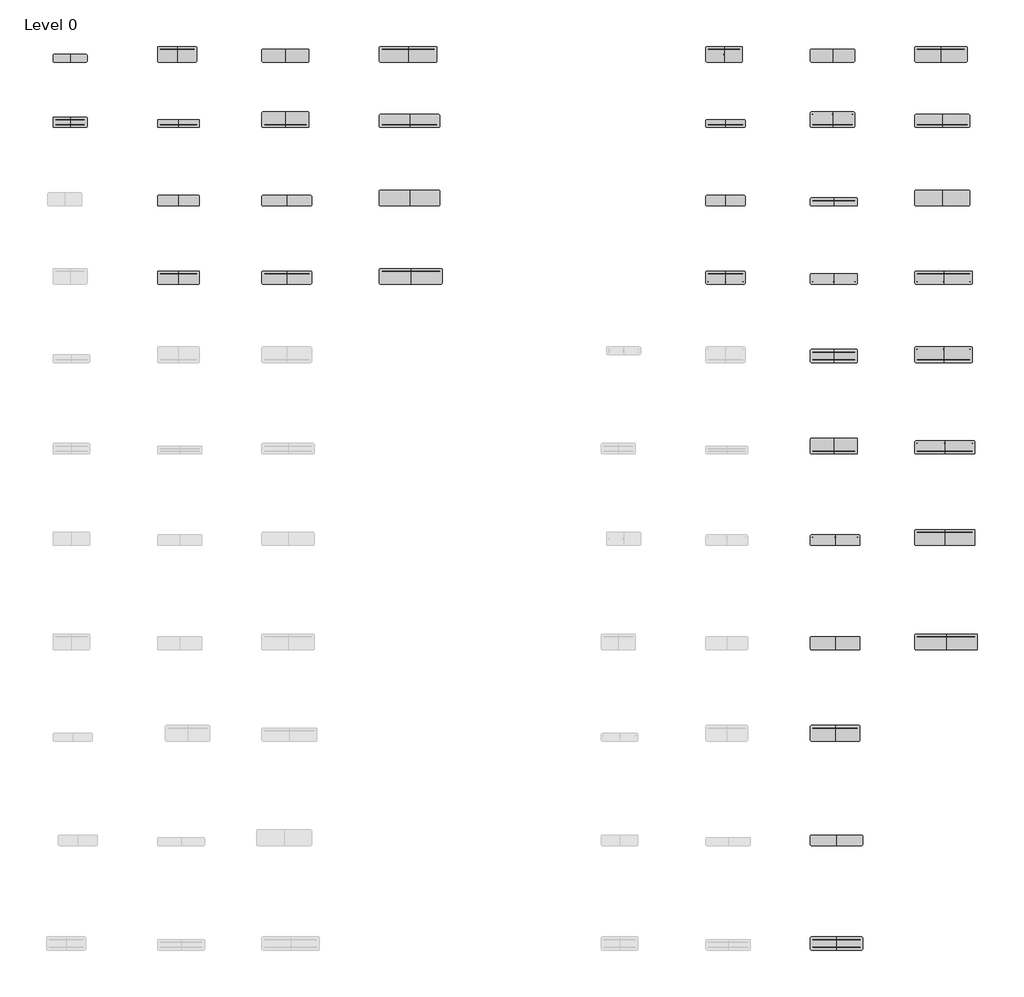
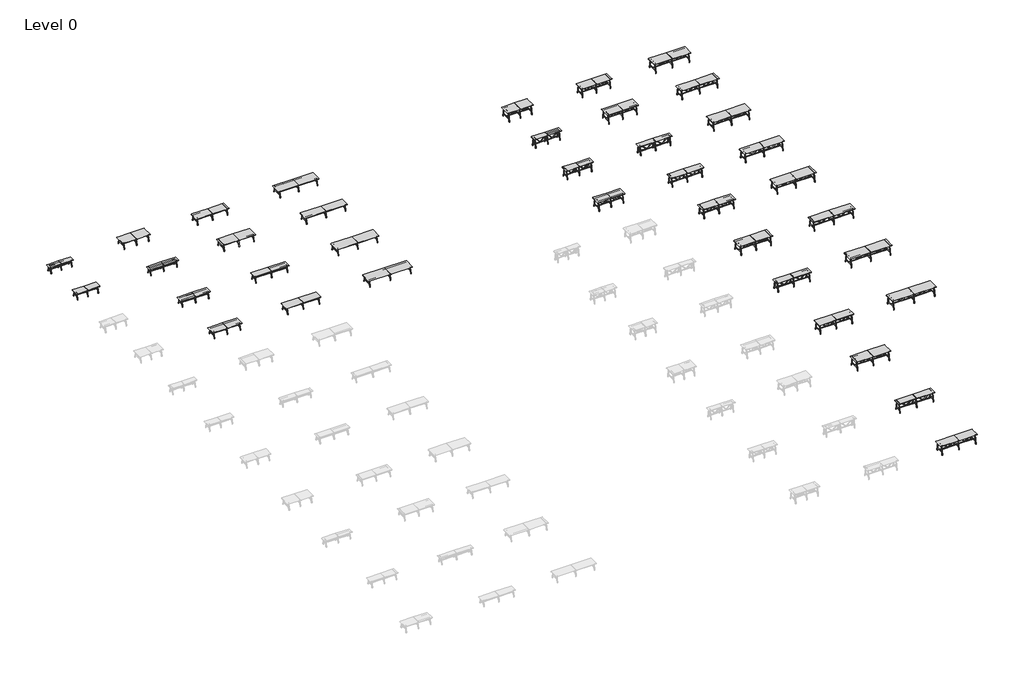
# One storey, part 2 of 2: 111 furniture elements.
"""IFC4 building model written with IfcOpenShell, lengths in millimetres."""

from ifc_helpers import new_model, si_unit, origin, place, context, project, spatial, transform, mapped, element, save
from components import furniture_a8da8c6c, furniture_bf5d280a, furniture_fe5108ca, furniture_91d1ad21, furniture_6b3ee88b, furniture_2c2fea91, furniture_64fc31fd, furniture_ee9454a6, furniture_f8b1dc2d, furniture_4ba8128c, furniture_8cfd374d, furniture_a2356af6, furniture_21c54065, furniture_b3756201, furniture_975e87f2, furniture_671829be, furniture_e9dce342, furniture_515d8d24, furniture_18169ef0, furniture_83d5880c, furniture_de72b87b, furniture_dbc55a2c, furniture_ba73165f, furniture_63866d18, furniture_80203a72, furniture_0616d36a, furniture_95861a6c, furniture_f8ce24c6, furniture_0840cc05, furniture_0215ca8e, furniture_9e24929a, furniture_9780884d, furniture_1006f0d8, furniture_fbad0ee9, furniture_86d8b4d1, furniture_46032078, furniture_09a09e86, standard_e49cf23a, standard_764fe6dd, standard_51391d5e, standard_9c482cb1, standard_5a547e0f, standard_83b622b6, standard_f0e4b4a8, standard_dce489fb, standard_a8cf723d, standard_96c98aa3, standard_760dc299, standard_3fda8c66, standard_67ecec02, standard_20d5036e, standard_b130652b, standard_3b17631c, standard_a00d5145, standard_066c3617, standard_9f9972de, standard_89768995, standard_30ef5b83, standard_21455343, standard_4e0f21be, standard_f1ad80d6, standard_e8bf10b1, standard_5f55f8bf, standard_79f6cf34, standard_6aeb70d0, standard_100b0362, standard_613d0d07, standard_fd26c19c, standard_a5c8d3ff, standard_bcc122a8

model = new_model("IFC4")

# Units and contexts
model_context = context("Model", 3, world=origin())
ifc_project = project(units=[si_unit("LENGTHUNIT", "METRE", prefix="MILLI")], contexts=[model_context])

# Site, building, storey
site = spatial("IfcSite", under=ifc_project)
building = spatial("IfcBuilding", under=site)
storey = spatial("IfcBuildingStorey", under=building, Name="Level 0", Elevation=0.0)

# Furniture
placement = place(None, origin())
furniture_shape = furniture_a8da8c6c(model_context)
element("IfcFurniture", 1, ObjectType="BDG_BossDesign_Tbls_AgentTables6Legs : AGE-DT-6L-2600-600-3D", at=placement, inside=storey, context=model_context, shape_type="MappedRepresentation", body=[
    mapped(furniture_shape, transform((-52884.3748273, -9863.0272761, 0.0), x_axis=(1.0, 0.0, 0.0), y_axis=(0.0, 1.0, 0.0), z_axis=(0.0, 0.0, 1.0))),
])
furniture_2_shape = furniture_bf5d280a(model_context)
element("IfcFurniture", 2, ObjectType="BDG_BossDesign_Tbls_AgentTables6Legs : AGE-DT-6L-2600-800-3D", at=placement, inside=storey, context=model_context, shape_type="MappedRepresentation", body=[
    mapped(furniture_2_shape, transform((-52884.3748273, -14763.0272761, 0.0), x_axis=(1.0, 0.0, 0.0), y_axis=(0.0, 1.0, 0.0), z_axis=(0.0, 0.0, 1.0))),
])
furniture_3_shape = furniture_fe5108ca(model_context)
element("IfcFurniture", 3, ObjectType="BDG_BossDesign_Tbls_AgentTables6Legs : AGE-DT-6L-3000-1200-3D", at=placement, inside=storey, context=model_context, shape_type="MappedRepresentation", body=[
    mapped(furniture_3_shape, transform((-44684.3748273, -9563.0272761, 0.0), x_axis=(1.0, 0.0, 0.0), y_axis=(0.0, 1.0, 0.0), z_axis=(0.0, 0.0, 1.0))),
])
furniture_4_shape = furniture_91d1ad21(model_context)
element("IfcFurniture", 4, ObjectType="BDG_BossDesign_Tbls_AgentTables6Legs : AGE-DT-6L-3200-600-3D", at=placement, inside=storey, context=model_context, shape_type="MappedRepresentation", body=[
    mapped(furniture_4_shape, transform((-44584.3748273, -14863.0272761, 0.0), x_axis=(1.0, 0.0, 0.0), y_axis=(0.0, 1.0, 0.0), z_axis=(0.0, 0.0, 1.0))),
])
furniture_5_shape = furniture_6b3ee88b(model_context)
element("IfcFurniture", 5, ObjectType="BDG_BossDesign_Tbls_AgentTables6Legs : AGE-DT-6L-3200-800-3D", at=placement, inside=storey, context=model_context, shape_type="MappedRepresentation", body=[
    mapped(furniture_5_shape, transform((-44584.3748273, -20763.0272761, 0.0), x_axis=(1.0, 0.0, 0.0), y_axis=(0.0, 1.0, 0.0), z_axis=(0.0, 0.0, 1.0))),
])
furniture_6_shape = furniture_2c2fea91(model_context)
element("IfcFurniture", 6, ObjectType="BDG_BossDesign_Tbls_AgentTables6Legs : AGE-DT-6L-3200-1000-3D", at=placement, inside=storey, context=model_context, shape_type="MappedRepresentation", body=[
    mapped(furniture_6_shape, transform((-44584.3748273, -26663.0272761, 0.0), x_axis=(1.0, 0.0, 0.0), y_axis=(0.0, 1.0, 0.0), z_axis=(0.0, 0.0, 1.0))),
])
furniture_7_shape = furniture_64fc31fd(model_context)
element("IfcFurniture", 7, ObjectType="BDG_BossDesign_Tbls_AgentTables6Legs : AGE-DT-6L-3600-1000-3D", at=placement, inside=storey, context=model_context, shape_type="MappedRepresentation", body=[
    mapped(furniture_7_shape, transform((-36384.3748273, -9663.0272761, 0.0), x_axis=(1.0, 0.0, 0.0), y_axis=(0.0, 1.0, 0.0), z_axis=(0.0, 0.0, 1.0))),
])
furniture_8_shape = furniture_ee9454a6(model_context)
element("IfcFurniture", 8, ObjectType="BDG_BossDesign_Tbls_AgentTables6Legs : AGE-DT-6L-3600-1200-3D", at=placement, inside=storey, context=model_context, shape_type="MappedRepresentation", body=[
    mapped(furniture_8_shape, transform((-36384.3748273, -14563.0272761, 0.0), x_axis=(1.0, 0.0, 0.0), y_axis=(0.0, 1.0, 0.0), z_axis=(0.0, 0.0, 1.0))),
])
furniture_9_shape = furniture_f8b1dc2d(model_context)
element("IfcFurniture", 9, ObjectType="BDG_BossDesign_Tbls_AgentTables6Legs : AGE-DT-6L-3800-800-3D", at=placement, inside=storey, context=model_context, shape_type="MappedRepresentation", body=[
    mapped(furniture_9_shape, transform((-36284.3748273, -20763.0272761, 0.0), x_axis=(1.0, 0.0, 0.0), y_axis=(0.0, 1.0, 0.0), z_axis=(0.0, 0.0, 1.0))),
])
furniture_10_shape = furniture_4ba8128c(model_context)
element("IfcFurniture", 10, ObjectType="BDG_BossDesign_Tbls_AgentTables6Legs : AGE-DT-6L-3800-1000-3D", at=placement, inside=storey, context=model_context, shape_type="MappedRepresentation", body=[
    mapped(furniture_10_shape, transform((-36284.3748273, -26663.0272761, 0.0), x_axis=(1.0, 0.0, 0.0), y_axis=(0.0, 1.0, 0.0), z_axis=(0.0, 0.0, 1.0))),
])
furniture_11_shape = furniture_8cfd374d(model_context)
element("IfcFurniture", 11, ObjectType="BDG_BossDesign_Tbls_AgentTables6Legs : AGE-DT-6L-4400-1200-3D", at=placement, inside=storey, context=model_context, shape_type="MappedRepresentation", body=[
    mapped(furniture_11_shape, transform((-26984.3748273, -9563.0272761, 0.0), x_axis=(1.0, 0.0, 0.0), y_axis=(0.0, 1.0, 0.0), z_axis=(0.0, 0.0, 1.0))),
])
furniture_12_shape = furniture_a2356af6(model_context)
element("IfcFurniture", 12, ObjectType="BDG_BossDesign_Tbls_AgentTables6Legs : AGE-DT-6L-4600-1000-3D", at=placement, inside=storey, context=model_context, shape_type="MappedRepresentation", body=[
    mapped(furniture_12_shape, transform((-26884.3748273, -14663.0272761, 0.0), x_axis=(1.0, 0.0, 0.0), y_axis=(0.0, 1.0, 0.0), z_axis=(0.0, 0.0, 1.0))),
])
furniture_13_shape = furniture_21c54065(model_context)
element("IfcFurniture", 13, ObjectType="BDG_BossDesign_Tbls_AgentTables6Legs : AGE-DT-6L-4600-1200-3D", at=placement, inside=storey, context=model_context, shape_type="MappedRepresentation", body=[
    mapped(furniture_13_shape, transform((-26884.3748273, -20563.0272761, 0.0), x_axis=(1.0, 0.0, 0.0), y_axis=(0.0, 1.0, 0.0), z_axis=(0.0, 0.0, 1.0))),
])
furniture_14_shape = furniture_b3756201(model_context)
element("IfcFurniture", 14, ObjectType="BDG_BossDesign_Tbls_AgentTables6Legs : AGE-DT-6L-4800-1200-3D", at=placement, inside=storey, context=model_context, shape_type="MappedRepresentation", body=[
    mapped(furniture_14_shape, transform((-26784.3748273, -26563.0272761, 0.0), x_axis=(1.0, 0.0, 0.0), y_axis=(0.0, 1.0, 0.0), z_axis=(0.0, 0.0, 1.0))),
])
furniture_15_shape = furniture_975e87f2(model_context)
element("IfcFurniture", 15, ObjectType="BDG_BossDesign_Tbls_AgentTables6Legs : AGE-HT-6L-2800-1200-3D", at=placement, inside=storey, context=model_context, shape_type="MappedRepresentation", body=[
    mapped(furniture_15_shape, transform((-2784.3748273, -9563.0272761, 0.0), x_axis=(1.0, 0.0, 0.0), y_axis=(0.0, 1.0, 0.0), z_axis=(0.0, 0.0, 1.0))),
])
furniture_16_shape = furniture_671829be(model_context)
element("IfcFurniture", 16, ObjectType="BDG_BossDesign_Tbls_AgentTables6Legs : AGE-HT-6L-3000-600-3D", at=placement, inside=storey, context=model_context, shape_type="MappedRepresentation", body=[
    mapped(furniture_16_shape, transform((-2684.3748273, -14863.0272761, 0.0), x_axis=(1.0, 0.0, 0.0), y_axis=(0.0, 1.0, 0.0), z_axis=(0.0, 0.0, 1.0))),
])
furniture_17_shape = furniture_e9dce342(model_context)
element("IfcFurniture", 17, ObjectType="BDG_BossDesign_Tbls_AgentTables6Legs : AGE-HT-6L-3000-800-3D", at=placement, inside=storey, context=model_context, shape_type="MappedRepresentation", body=[
    mapped(furniture_17_shape, transform((-2684.3748273, -20763.0272761, 0.0), x_axis=(1.0, 0.0, 0.0), y_axis=(0.0, 1.0, 0.0), z_axis=(0.0, 0.0, 1.0))),
])
furniture_18_shape = furniture_515d8d24(model_context)
element("IfcFurniture", 18, ObjectType="BDG_BossDesign_Tbls_AgentTables6Legs : AGE-HT-6L-3000-1000-3D", at=placement, inside=storey, context=model_context, shape_type="MappedRepresentation", body=[
    mapped(furniture_18_shape, transform((-2684.3748273, -26663.0272761, 0.0), x_axis=(1.0, 0.0, 0.0), y_axis=(0.0, 1.0, 0.0), z_axis=(0.0, 0.0, 1.0))),
])
furniture_19_shape = furniture_18169ef0(model_context)
element("IfcFurniture", 19, ObjectType="BDG_BossDesign_Tbls_AgentTables6Legs : AGE-HT-6L-3400-1000-3D", at=placement, inside=storey, context=model_context, shape_type="MappedRepresentation", body=[
    mapped(furniture_19_shape, transform((5515.6251727, -9663.0272761, 0.0), x_axis=(1.0, 0.0, 0.0), y_axis=(0.0, 1.0, 0.0), z_axis=(0.0, 0.0, 1.0))),
])
furniture_20_shape = furniture_83d5880c(model_context)
element("IfcFurniture", 20, ObjectType="BDG_BossDesign_Tbls_AgentTables6Legs : AGE-HT-6L-3400-1200-3D", at=placement, inside=storey, context=model_context, shape_type="MappedRepresentation", body=[
    mapped(furniture_20_shape, transform((5515.6251727, -14563.0272761, 0.0), x_axis=(1.0, 0.0, 0.0), y_axis=(0.0, 1.0, 0.0), z_axis=(0.0, 0.0, 1.0))),
])
furniture_21_shape = furniture_de72b87b(model_context)
element("IfcFurniture", 21, ObjectType="BDG_BossDesign_Tbls_AgentTables6Legs : AGE-HT-6L-3600-600-3D", at=placement, inside=storey, context=model_context, shape_type="MappedRepresentation", body=[
    mapped(furniture_21_shape, transform((5615.6251727, -20863.0272761, 0.0), x_axis=(1.0, 0.0, 0.0), y_axis=(0.0, 1.0, 0.0), z_axis=(0.0, 0.0, 1.0))),
])
furniture_22_shape = furniture_dbc55a2c(model_context)
element("IfcFurniture", 22, ObjectType="BDG_BossDesign_Tbls_AgentTables6Legs : AGE-HT-6L-3600-800-3D", at=placement, inside=storey, context=model_context, shape_type="MappedRepresentation", body=[
    mapped(furniture_22_shape, transform((5615.6251727, -26763.0272761, 0.0), x_axis=(1.0, 0.0, 0.0), y_axis=(0.0, 1.0, 0.0), z_axis=(0.0, 0.0, 1.0))),
])
furniture_23_shape = furniture_ba73165f(model_context)
element("IfcFurniture", 23, ObjectType="BDG_BossDesign_Tbls_AgentTables6Legs : AGE-HT-6L-3600-1000-3D", at=placement, inside=storey, context=model_context, shape_type="MappedRepresentation", body=[
    mapped(furniture_23_shape, transform((5615.6251727, -32663.0272761, 0.0), x_axis=(1.0, 0.0, 0.0), y_axis=(0.0, 1.0, 0.0), z_axis=(0.0, 0.0, 1.0))),
])
furniture_24_shape = furniture_63866d18(model_context)
element("IfcFurniture", 24, ObjectType="BDG_BossDesign_Tbls_AgentTables6Legs : AGE-HT-6L-3600-1200-3D", at=placement, inside=storey, context=model_context, shape_type="MappedRepresentation", body=[
    mapped(furniture_24_shape, transform((5615.6251727, -39563.0272761, 0.0), x_axis=(1.0, 0.0, 0.0), y_axis=(0.0, 1.0, 0.0), z_axis=(0.0, 0.0, 1.0))),
])
furniture_25_shape = furniture_80203a72(model_context)
element("IfcFurniture", 25, ObjectType="BDG_BossDesign_Tbls_AgentTables6Legs : AGE-HT-6L-3800-800-3D", at=placement, inside=storey, context=model_context, shape_type="MappedRepresentation", body=[
    mapped(furniture_25_shape, transform((5715.6251727, -46763.0272761, 0.0), x_axis=(1.0, 0.0, 0.0), y_axis=(0.0, 1.0, 0.0), z_axis=(0.0, 0.0, 1.0))),
])
furniture_26_shape = furniture_0616d36a(model_context)
element("IfcFurniture", 26, ObjectType="BDG_BossDesign_Tbls_AgentTables6Legs : AGE-HT-6L-3800-1000-3D", at=placement, inside=storey, context=model_context, shape_type="MappedRepresentation", body=[
    mapped(furniture_26_shape, transform((5715.6251727, -54663.0272761, 0.0), x_axis=(1.0, 0.0, 0.0), y_axis=(0.0, 1.0, 0.0), z_axis=(0.0, 0.0, 1.0))),
])
furniture_27_shape = furniture_95861a6c(model_context)
element("IfcFurniture", 27, ObjectType="BDG_BossDesign_Tbls_AgentTables6Legs : AGE-HT-6L-3800-1200-3D", at=placement, inside=storey, context=model_context, shape_type="MappedRepresentation", body=[
    mapped(furniture_27_shape, transform((5715.6251727, -61563.0272761, 0.0), x_axis=(1.0, 0.0, 0.0), y_axis=(0.0, 1.0, 0.0), z_axis=(0.0, 0.0, 1.0))),
])
furniture_28_shape = furniture_f8ce24c6(model_context)
element("IfcFurniture", 28, ObjectType="BDG_BossDesign_Tbls_AgentTables6Legs : AGE-HT-6L-4000-800-3D", at=placement, inside=storey, context=model_context, shape_type="MappedRepresentation", body=[
    mapped(furniture_28_shape, transform((5815.6251727, -69763.0272761, 0.0), x_axis=(1.0, 0.0, 0.0), y_axis=(0.0, 1.0, 0.0), z_axis=(0.0, 0.0, 1.0))),
])
furniture_29_shape = furniture_0840cc05(model_context)
element("IfcFurniture", 29, ObjectType="BDG_BossDesign_Tbls_AgentTables6Legs : AGE-HT-6L-4000-1000-3D", at=placement, inside=storey, context=model_context, shape_type="MappedRepresentation", body=[
    mapped(furniture_29_shape, transform((5815.6251727, -77663.0272761, 0.0), x_axis=(1.0, 0.0, 0.0), y_axis=(0.0, 1.0, 0.0), z_axis=(0.0, 0.0, 1.0))),
])
furniture_30_shape = furniture_0215ca8e(model_context)
element("IfcFurniture", 30, ObjectType="BDG_BossDesign_Tbls_AgentTables6Legs : AGE-HT-6L-4000-1200-3D", at=placement, inside=storey, context=model_context, shape_type="MappedRepresentation", body=[
    mapped(furniture_30_shape, transform((13815.6251727, -9563.0272761, 0.0), x_axis=(1.0, 0.0, 0.0), y_axis=(0.0, 1.0, 0.0), z_axis=(0.0, 0.0, 1.0))),
])
furniture_31_shape = furniture_9e24929a(model_context)
element("IfcFurniture", 31, ObjectType="BDG_BossDesign_Tbls_AgentTables6Legs : AGE-HT-6L-4200-1000-3D", at=placement, inside=storey, context=model_context, shape_type="MappedRepresentation", body=[
    mapped(furniture_31_shape, transform((13915.6251727, -14663.0272761, 0.0), x_axis=(1.0, 0.0, 0.0), y_axis=(0.0, 1.0, 0.0), z_axis=(0.0, 0.0, 1.0))),
])
furniture_32_shape = furniture_9780884d(model_context)
element("IfcFurniture", 32, ObjectType="BDG_BossDesign_Tbls_AgentTables6Legs : AGE-HT-6L-4200-1200-3D", at=placement, inside=storey, context=model_context, shape_type="MappedRepresentation", body=[
    mapped(furniture_32_shape, transform((13915.6251727, -20563.0272761, 0.0), x_axis=(1.0, 0.0, 0.0), y_axis=(0.0, 1.0, 0.0), z_axis=(0.0, 0.0, 1.0))),
])
furniture_33_shape = furniture_1006f0d8(model_context)
element("IfcFurniture", 33, ObjectType="BDG_BossDesign_Tbls_AgentTables6Legs : AGE-HT-6L-4400-1000-3D", at=placement, inside=storey, context=model_context, shape_type="MappedRepresentation", body=[
    mapped(furniture_33_shape, transform((14015.6251727, -26663.0272761, 0.0), x_axis=(1.0, 0.0, 0.0), y_axis=(0.0, 1.0, 0.0), z_axis=(0.0, 0.0, 1.0))),
])
furniture_34_shape = furniture_fbad0ee9(model_context)
element("IfcFurniture", 34, ObjectType="BDG_BossDesign_Tbls_AgentTables6Legs : AGE-HT-6L-4400-1200-3D", at=placement, inside=storey, context=model_context, shape_type="MappedRepresentation", body=[
    mapped(furniture_34_shape, transform((14015.6251727, -32563.0272761, 0.0), x_axis=(1.0, 0.0, 0.0), y_axis=(0.0, 1.0, 0.0), z_axis=(0.0, 0.0, 1.0))),
])
furniture_35_shape = furniture_86d8b4d1(model_context)
element("IfcFurniture", 35, ObjectType="BDG_BossDesign_Tbls_AgentTables6Legs : AGE-HT-6L-4600-1000-3D", at=placement, inside=storey, context=model_context, shape_type="MappedRepresentation", body=[
    mapped(furniture_35_shape, transform((14115.6251727, -39663.0272761, 0.0), x_axis=(1.0, 0.0, 0.0), y_axis=(0.0, 1.0, 0.0), z_axis=(0.0, 0.0, 1.0))),
])
furniture_36_shape = furniture_46032078(model_context)
element("IfcFurniture", 36, ObjectType="BDG_BossDesign_Tbls_AgentTables6Legs : AGE-HT-6L-4600-1200-3D", at=placement, inside=storey, context=model_context, shape_type="MappedRepresentation", body=[
    mapped(furniture_36_shape, transform((14115.6251727, -46563.0272761, 0.0), x_axis=(1.0, 0.0, 0.0), y_axis=(0.0, 1.0, 0.0), z_axis=(0.0, 0.0, 1.0))),
])
furniture_37_shape = furniture_09a09e86(model_context)
element("IfcFurniture", 37, ObjectType="BDG_BossDesign_Tbls_AgentTables6Legs : AGE-HT-6L-4800-1200-3D", at=placement, inside=storey, context=model_context, shape_type="MappedRepresentation", body=[
    mapped(furniture_37_shape, transform((14215.6251727, -54563.0272761, 0.0), x_axis=(1.0, 0.0, 0.0), y_axis=(0.0, 1.0, 0.0), z_axis=(0.0, 0.0, 1.0))),
])
standard_shape = standard_e49cf23a(model_context)
element("IfcFurniture", 38, ObjectType="BDG_BossDesign_Tbls_AgentTables4Legs_Nested : Standard", at=placement, inside=storey, context=model_context, shape_type="MappedRepresentation", body=[
    mapped(standard_shape, transform((-52884.3748273, -9863.0272761, 0.0), x_axis=(1.0, 0.0, 0.0), y_axis=(0.0, 1.0, 0.0), z_axis=(0.0, 0.0, 1.0))),
])
standard_2_shape = standard_764fe6dd(model_context)
element("IfcFurniture", 39, ObjectType="BDG_BossDesign_Tbls_AgentTables4Legs_MiddleCrossBeamNested : Standard", at=placement, inside=storey, context=model_context, shape_type="MappedRepresentation", body=[
    mapped(standard_2_shape, transform((-52884.3748273, -9863.0272761, 0.0), x_axis=(1.0, 0.0, 0.0), y_axis=(0.0, 1.0, 0.0), z_axis=(0.0, 0.0, 1.0))),
])
standard_3_shape = standard_51391d5e(model_context)
element("IfcFurniture", 40, ObjectType="BDG_BossDesign_Tbls_AgentTables4Legs_Nested : Standard", at=placement, inside=storey, context=model_context, shape_type="MappedRepresentation", body=[
    mapped(standard_3_shape, transform((-52884.3748273, -14763.0272761, 0.0), x_axis=(1.0, 0.0, 0.0), y_axis=(0.0, 1.0, 0.0), z_axis=(0.0, 0.0, 1.0))),
])
standard_4_shape = standard_9c482cb1(model_context)
element("IfcFurniture", 41, ObjectType="BDG_BossDesign_Tbls_AgentTables4Legs_MiddleCrossBeamNested : Standard", at=placement, inside=storey, context=model_context, shape_type="MappedRepresentation", body=[
    mapped(standard_4_shape, transform((-52884.3748273, -14763.0272761, 0.0), x_axis=(1.0, 0.0, 0.0), y_axis=(0.0, 1.0, 0.0), z_axis=(0.0, 0.0, 1.0))),
])
standard_5_shape = standard_5a547e0f(model_context)
element("IfcFurniture", 42, ObjectType="BDG_BossDesign_Tbls_AgentTables4Legs_Nested : Standard", at=placement, inside=storey, context=model_context, shape_type="MappedRepresentation", body=[
    mapped(standard_5_shape, transform((-2784.3748273, -9563.0272761, 310.0), x_axis=(1.0, 0.0, 0.0), y_axis=(0.0, 1.0, 0.0), z_axis=(0.0, 0.0, 1.0))),
])
standard_6_shape = standard_83b622b6(model_context)
element("IfcFurniture", 43, ObjectType="BDG_BossDesign_Tbls_AgentTables4Legs_MiddleCrossBeamNested : Standard", at=placement, inside=storey, context=model_context, shape_type="MappedRepresentation", body=[
    mapped(standard_6_shape, transform((-2784.3748273, -9563.0272761, 310.0), x_axis=(1.0, 0.0, 0.0), y_axis=(0.0, 1.0, 0.0), z_axis=(0.0, 0.0, 1.0))),
])
standard_7_shape = standard_f0e4b4a8(model_context)
element("IfcFurniture", 44, ObjectType="BDG_BossDesign_Tbls_AgentTables4Legs_Nested : Standard", at=placement, inside=storey, context=model_context, shape_type="MappedRepresentation", body=[
    mapped(standard_7_shape, transform((-2684.3748273, -14863.0272761, 310.0), x_axis=(1.0, 0.0, 0.0), y_axis=(0.0, 1.0, 0.0), z_axis=(0.0, 0.0, 1.0))),
])
element("IfcFurniture", 45, ObjectType="BDG_BossDesign_Tbls_AgentTables4Legs_MiddleCrossBeamNested : Standard", at=placement, inside=storey, context=model_context, shape_type="MappedRepresentation", body=[
    mapped(standard_2_shape, transform((-2684.3748273, -14863.0272761, 310.0), x_axis=(1.0, 0.0, 0.0), y_axis=(0.0, 1.0, 0.0), z_axis=(0.0, 0.0, 1.0))),
])
standard_8_shape = standard_dce489fb(model_context)
element("IfcFurniture", 46, ObjectType="BDG_BossDesign_Tbls_AgentTables4Legs_Nested : Standard", at=placement, inside=storey, context=model_context, shape_type="MappedRepresentation", body=[
    mapped(standard_8_shape, transform((-2684.3748273, -20763.0272761, 310.0), x_axis=(1.0, 0.0, 0.0), y_axis=(0.0, 1.0, 0.0), z_axis=(0.0, 0.0, 1.0))),
])
element("IfcFurniture", 47, ObjectType="BDG_BossDesign_Tbls_AgentTables4Legs_MiddleCrossBeamNested : Standard", at=placement, inside=storey, context=model_context, shape_type="MappedRepresentation", body=[
    mapped(standard_4_shape, transform((-2684.3748273, -20763.0272761, 310.0), x_axis=(1.0, 0.0, 0.0), y_axis=(0.0, 1.0, 0.0), z_axis=(0.0, 0.0, 1.0))),
])
standard_9_shape = standard_a8cf723d(model_context)
element("IfcFurniture", 48, ObjectType="BDG_BossDesign_Tbls_AgentTables4Legs_Nested : Standard", at=placement, inside=storey, context=model_context, shape_type="MappedRepresentation", body=[
    mapped(standard_9_shape, transform((-2684.3748273, -26663.0272761, 310.0), x_axis=(1.0, 0.0, 0.0), y_axis=(0.0, 1.0, 0.0), z_axis=(0.0, 0.0, 1.0))),
])
standard_10_shape = standard_96c98aa3(model_context)
element("IfcFurniture", 49, ObjectType="BDG_BossDesign_Tbls_AgentTables4Legs_MiddleCrossBeamNested : Standard", at=placement, inside=storey, context=model_context, shape_type="MappedRepresentation", body=[
    mapped(standard_10_shape, transform((-2684.3748273, -26663.0272761, 310.0), x_axis=(1.0, 0.0, 0.0), y_axis=(0.0, 1.0, 0.0), z_axis=(0.0, 0.0, 1.0))),
])
standard_11_shape = standard_760dc299(model_context)
element("IfcFurniture", 50, ObjectType="BDG_BossDesign_Tbls_AgentTables4Legs_Nested : Standard", at=placement, inside=storey, context=model_context, shape_type="MappedRepresentation", body=[
    mapped(standard_11_shape, transform((-44684.3748273, -9563.0272761, 0.0), x_axis=(1.0, 0.0, 0.0), y_axis=(0.0, 1.0, 0.0), z_axis=(0.0, 0.0, 1.0))),
])
element("IfcFurniture", 51, ObjectType="BDG_BossDesign_Tbls_AgentTables4Legs_MiddleCrossBeamNested : Standard", at=placement, inside=storey, context=model_context, shape_type="MappedRepresentation", body=[
    mapped(standard_6_shape, transform((-44684.3748273, -9563.0272761, 0.0), x_axis=(1.0, 0.0, 0.0), y_axis=(0.0, 1.0, 0.0), z_axis=(0.0, 0.0, 1.0))),
])
standard_12_shape = standard_3fda8c66(model_context)
element("IfcFurniture", 52, ObjectType="BDG_BossDesign_Tbls_AgentTables4Legs_Nested : Standard", at=placement, inside=storey, context=model_context, shape_type="MappedRepresentation", body=[
    mapped(standard_12_shape, transform((-44584.3748273, -14863.0272761, 0.0), x_axis=(1.0, 0.0, 0.0), y_axis=(0.0, 1.0, 0.0), z_axis=(0.0, 0.0, 1.0))),
])
element("IfcFurniture", 53, ObjectType="BDG_BossDesign_Tbls_AgentTables4Legs_MiddleCrossBeamNested : Standard", at=placement, inside=storey, context=model_context, shape_type="MappedRepresentation", body=[
    mapped(standard_2_shape, transform((-44584.3748273, -14863.0272761, 0.0), x_axis=(1.0, 0.0, 0.0), y_axis=(0.0, 1.0, 0.0), z_axis=(0.0, 0.0, 1.0))),
])
standard_13_shape = standard_67ecec02(model_context)
element("IfcFurniture", 54, ObjectType="BDG_BossDesign_Tbls_AgentTables4Legs_Nested : Standard", at=placement, inside=storey, context=model_context, shape_type="MappedRepresentation", body=[
    mapped(standard_13_shape, transform((-44584.3748273, -20763.0272761, 0.0), x_axis=(1.0, 0.0, 0.0), y_axis=(0.0, 1.0, 0.0), z_axis=(0.0, 0.0, 1.0))),
])
element("IfcFurniture", 55, ObjectType="BDG_BossDesign_Tbls_AgentTables4Legs_MiddleCrossBeamNested : Standard", at=placement, inside=storey, context=model_context, shape_type="MappedRepresentation", body=[
    mapped(standard_4_shape, transform((-44584.3748273, -20763.0272761, 0.0), x_axis=(1.0, 0.0, 0.0), y_axis=(0.0, 1.0, 0.0), z_axis=(0.0, 0.0, 1.0))),
])
standard_14_shape = standard_20d5036e(model_context)
element("IfcFurniture", 56, ObjectType="BDG_BossDesign_Tbls_AgentTables4Legs_Nested : Standard", at=placement, inside=storey, context=model_context, shape_type="MappedRepresentation", body=[
    mapped(standard_14_shape, transform((-44584.3748273, -26663.0272761, 0.0), x_axis=(1.0, 0.0, 0.0), y_axis=(0.0, 1.0, 0.0), z_axis=(0.0, 0.0, 1.0))),
])
element("IfcFurniture", 57, ObjectType="BDG_BossDesign_Tbls_AgentTables4Legs_MiddleCrossBeamNested : Standard", at=placement, inside=storey, context=model_context, shape_type="MappedRepresentation", body=[
    mapped(standard_10_shape, transform((-44584.3748273, -26663.0272761, 0.0), x_axis=(1.0, 0.0, 0.0), y_axis=(0.0, 1.0, 0.0), z_axis=(0.0, 0.0, 1.0))),
])
standard_15_shape = standard_b130652b(model_context)
element("IfcFurniture", 58, ObjectType="BDG_BossDesign_Tbls_AgentTables4Legs_Nested : Standard", at=placement, inside=storey, context=model_context, shape_type="MappedRepresentation", body=[
    mapped(standard_15_shape, transform((5515.6251727, -9663.0272761, 310.0), x_axis=(1.0, 0.0, 0.0), y_axis=(0.0, 1.0, 0.0), z_axis=(0.0, 0.0, 1.0))),
])
element("IfcFurniture", 59, ObjectType="BDG_BossDesign_Tbls_AgentTables4Legs_MiddleCrossBeamNested : Standard", at=placement, inside=storey, context=model_context, shape_type="MappedRepresentation", body=[
    mapped(standard_10_shape, transform((5515.6251727, -9663.0272761, 310.0), x_axis=(1.0, 0.0, 0.0), y_axis=(0.0, 1.0, 0.0), z_axis=(0.0, 0.0, 1.0))),
])
standard_16_shape = standard_3b17631c(model_context)
element("IfcFurniture", 60, ObjectType="BDG_BossDesign_Tbls_AgentTables4Legs_Nested : Standard", at=placement, inside=storey, context=model_context, shape_type="MappedRepresentation", body=[
    mapped(standard_16_shape, transform((5515.6251727, -14563.0272761, 310.0), x_axis=(1.0, 0.0, 0.0), y_axis=(0.0, 1.0, 0.0), z_axis=(0.0, 0.0, 1.0))),
])
element("IfcFurniture", 61, ObjectType="BDG_BossDesign_Tbls_AgentTables4Legs_MiddleCrossBeamNested : Standard", at=placement, inside=storey, context=model_context, shape_type="MappedRepresentation", body=[
    mapped(standard_6_shape, transform((5515.6251727, -14563.0272761, 310.0), x_axis=(1.0, 0.0, 0.0), y_axis=(0.0, 1.0, 0.0), z_axis=(0.0, 0.0, 1.0))),
])
standard_17_shape = standard_a00d5145(model_context)
element("IfcFurniture", 62, ObjectType="BDG_BossDesign_Tbls_AgentTables4Legs_Nested : Standard", at=placement, inside=storey, context=model_context, shape_type="MappedRepresentation", body=[
    mapped(standard_17_shape, transform((5615.6251727, -20863.0272761, 310.0), x_axis=(1.0, 0.0, 0.0), y_axis=(0.0, 1.0, 0.0), z_axis=(0.0, 0.0, 1.0))),
])
element("IfcFurniture", 63, ObjectType="BDG_BossDesign_Tbls_AgentTables4Legs_MiddleCrossBeamNested : Standard", at=placement, inside=storey, context=model_context, shape_type="MappedRepresentation", body=[
    mapped(standard_2_shape, transform((5615.6251727, -20863.0272761, 310.0), x_axis=(1.0, 0.0, 0.0), y_axis=(0.0, 1.0, 0.0), z_axis=(0.0, 0.0, 1.0))),
])
standard_18_shape = standard_066c3617(model_context)
element("IfcFurniture", 64, ObjectType="BDG_BossDesign_Tbls_AgentTables4Legs_Nested : Standard", at=placement, inside=storey, context=model_context, shape_type="MappedRepresentation", body=[
    mapped(standard_18_shape, transform((5615.6251727, -26763.0272761, 310.0), x_axis=(1.0, 0.0, 0.0), y_axis=(0.0, 1.0, 0.0), z_axis=(0.0, 0.0, 1.0))),
])
element("IfcFurniture", 65, ObjectType="BDG_BossDesign_Tbls_AgentTables4Legs_MiddleCrossBeamNested : Standard", at=placement, inside=storey, context=model_context, shape_type="MappedRepresentation", body=[
    mapped(standard_4_shape, transform((5615.6251727, -26763.0272761, 310.0), x_axis=(1.0, 0.0, 0.0), y_axis=(0.0, 1.0, 0.0), z_axis=(0.0, 0.0, 1.0))),
])
standard_19_shape = standard_9f9972de(model_context)
element("IfcFurniture", 66, ObjectType="BDG_BossDesign_Tbls_AgentTables4Legs_Nested : Standard", at=placement, inside=storey, context=model_context, shape_type="MappedRepresentation", body=[
    mapped(standard_19_shape, transform((-36384.3748273, -9663.0272761, 0.0), x_axis=(1.0, 0.0, 0.0), y_axis=(0.0, 1.0, 0.0), z_axis=(0.0, 0.0, 1.0))),
])
element("IfcFurniture", 67, ObjectType="BDG_BossDesign_Tbls_AgentTables4Legs_Nested : Standard", at=placement, inside=storey, context=model_context, shape_type="MappedRepresentation", body=[
    mapped(standard_19_shape, transform((5615.6251727, -32663.0272761, 310.0), x_axis=(1.0, 0.0, 0.0), y_axis=(0.0, 1.0, 0.0), z_axis=(0.0, 0.0, 1.0))),
])
element("IfcFurniture", 68, ObjectType="BDG_BossDesign_Tbls_AgentTables4Legs_MiddleCrossBeamNested : Standard", at=placement, inside=storey, context=model_context, shape_type="MappedRepresentation", body=[
    mapped(standard_10_shape, transform((-36384.3748273, -9663.0272761, 0.0), x_axis=(1.0, 0.0, 0.0), y_axis=(0.0, 1.0, 0.0), z_axis=(0.0, 0.0, 1.0))),
])
element("IfcFurniture", 69, ObjectType="BDG_BossDesign_Tbls_AgentTables4Legs_MiddleCrossBeamNested : Standard", at=placement, inside=storey, context=model_context, shape_type="MappedRepresentation", body=[
    mapped(standard_10_shape, transform((5615.6251727, -32663.0272761, 310.0), x_axis=(1.0, 0.0, 0.0), y_axis=(0.0, 1.0, 0.0), z_axis=(0.0, 0.0, 1.0))),
])
standard_20_shape = standard_89768995(model_context)
element("IfcFurniture", 70, ObjectType="BDG_BossDesign_Tbls_AgentTables4Legs_Nested : Standard", at=placement, inside=storey, context=model_context, shape_type="MappedRepresentation", body=[
    mapped(standard_20_shape, transform((-36384.3748273, -14563.0272761, 0.0), x_axis=(1.0, 0.0, 0.0), y_axis=(0.0, 1.0, 0.0), z_axis=(0.0, 0.0, 1.0))),
])
element("IfcFurniture", 71, ObjectType="BDG_BossDesign_Tbls_AgentTables4Legs_Nested : Standard", at=placement, inside=storey, context=model_context, shape_type="MappedRepresentation", body=[
    mapped(standard_20_shape, transform((5615.6251727, -39563.0272761, 310.0), x_axis=(1.0, 0.0, 0.0), y_axis=(0.0, 1.0, 0.0), z_axis=(0.0, 0.0, 1.0))),
])
element("IfcFurniture", 72, ObjectType="BDG_BossDesign_Tbls_AgentTables4Legs_MiddleCrossBeamNested : Standard", at=placement, inside=storey, context=model_context, shape_type="MappedRepresentation", body=[
    mapped(standard_6_shape, transform((-36384.3748273, -14563.0272761, 0.0), x_axis=(1.0, 0.0, 0.0), y_axis=(0.0, 1.0, 0.0), z_axis=(0.0, 0.0, 1.0))),
])
element("IfcFurniture", 73, ObjectType="BDG_BossDesign_Tbls_AgentTables4Legs_MiddleCrossBeamNested : Standard", at=placement, inside=storey, context=model_context, shape_type="MappedRepresentation", body=[
    mapped(standard_6_shape, transform((5615.6251727, -39563.0272761, 310.0), x_axis=(1.0, 0.0, 0.0), y_axis=(0.0, 1.0, 0.0), z_axis=(0.0, 0.0, 1.0))),
])
standard_21_shape = standard_30ef5b83(model_context)
element("IfcFurniture", 74, ObjectType="BDG_BossDesign_Tbls_AgentTables4Legs_Nested : Standard", at=placement, inside=storey, context=model_context, shape_type="MappedRepresentation", body=[
    mapped(standard_21_shape, transform((-36284.3748273, -20763.0272761, 0.0), x_axis=(1.0, 0.0, 0.0), y_axis=(0.0, 1.0, 0.0), z_axis=(0.0, 0.0, 1.0))),
])
element("IfcFurniture", 75, ObjectType="BDG_BossDesign_Tbls_AgentTables4Legs_Nested : Standard", at=placement, inside=storey, context=model_context, shape_type="MappedRepresentation", body=[
    mapped(standard_21_shape, transform((5715.6251727, -46763.0272761, 310.0), x_axis=(1.0, 0.0, 0.0), y_axis=(0.0, 1.0, 0.0), z_axis=(0.0, 0.0, 1.0))),
])
element("IfcFurniture", 76, ObjectType="BDG_BossDesign_Tbls_AgentTables4Legs_MiddleCrossBeamNested : Standard", at=placement, inside=storey, context=model_context, shape_type="MappedRepresentation", body=[
    mapped(standard_4_shape, transform((-36284.3748273, -20763.0272761, 0.0), x_axis=(1.0, 0.0, 0.0), y_axis=(0.0, 1.0, 0.0), z_axis=(0.0, 0.0, 1.0))),
])
element("IfcFurniture", 77, ObjectType="BDG_BossDesign_Tbls_AgentTables4Legs_MiddleCrossBeamNested : Standard", at=placement, inside=storey, context=model_context, shape_type="MappedRepresentation", body=[
    mapped(standard_4_shape, transform((5715.6251727, -46763.0272761, 310.0), x_axis=(1.0, 0.0, 0.0), y_axis=(0.0, 1.0, 0.0), z_axis=(0.0, 0.0, 1.0))),
])
standard_22_shape = standard_21455343(model_context)
element("IfcFurniture", 78, ObjectType="BDG_BossDesign_Tbls_AgentTables4Legs_Nested : Standard", at=placement, inside=storey, context=model_context, shape_type="MappedRepresentation", body=[
    mapped(standard_22_shape, transform((-36284.3748273, -26663.0272761, 0.0), x_axis=(1.0, 0.0, 0.0), y_axis=(0.0, 1.0, 0.0), z_axis=(0.0, 0.0, 1.0))),
])
element("IfcFurniture", 79, ObjectType="BDG_BossDesign_Tbls_AgentTables4Legs_Nested : Standard", at=placement, inside=storey, context=model_context, shape_type="MappedRepresentation", body=[
    mapped(standard_22_shape, transform((5715.6251727, -54663.0272761, 310.0), x_axis=(1.0, 0.0, 0.0), y_axis=(0.0, 1.0, 0.0), z_axis=(0.0, 0.0, 1.0))),
])
element("IfcFurniture", 80, ObjectType="BDG_BossDesign_Tbls_AgentTables4Legs_MiddleCrossBeamNested : Standard", at=placement, inside=storey, context=model_context, shape_type="MappedRepresentation", body=[
    mapped(standard_10_shape, transform((-36284.3748273, -26663.0272761, 0.0), x_axis=(1.0, 0.0, 0.0), y_axis=(0.0, 1.0, 0.0), z_axis=(0.0, 0.0, 1.0))),
])
element("IfcFurniture", 81, ObjectType="BDG_BossDesign_Tbls_AgentTables4Legs_MiddleCrossBeamNested : Standard", at=placement, inside=storey, context=model_context, shape_type="MappedRepresentation", body=[
    mapped(standard_10_shape, transform((5715.6251727, -54663.0272761, 310.0), x_axis=(1.0, 0.0, 0.0), y_axis=(0.0, 1.0, 0.0), z_axis=(0.0, 0.0, 1.0))),
])
standard_23_shape = standard_4e0f21be(model_context)
element("IfcFurniture", 82, ObjectType="BDG_BossDesign_Tbls_AgentTables4Legs_Nested : Standard", at=placement, inside=storey, context=model_context, shape_type="MappedRepresentation", body=[
    mapped(standard_23_shape, transform((5715.6251727, -61563.0272761, 310.0), x_axis=(1.0, 0.0, 0.0), y_axis=(0.0, 1.0, 0.0), z_axis=(0.0, 0.0, 1.0))),
])
element("IfcFurniture", 83, ObjectType="BDG_BossDesign_Tbls_AgentTables4Legs_MiddleCrossBeamNested : Standard", at=placement, inside=storey, context=model_context, shape_type="MappedRepresentation", body=[
    mapped(standard_6_shape, transform((5715.6251727, -61563.0272761, 310.0), x_axis=(1.0, 0.0, 0.0), y_axis=(0.0, 1.0, 0.0), z_axis=(0.0, 0.0, 1.0))),
])
standard_24_shape = standard_f1ad80d6(model_context)
element("IfcFurniture", 84, ObjectType="BDG_BossDesign_Tbls_AgentTables4Legs_Nested : Standard", at=placement, inside=storey, context=model_context, shape_type="MappedRepresentation", body=[
    mapped(standard_24_shape, transform((5815.6251727, -69763.0272761, 310.0), x_axis=(1.0, 0.0, 0.0), y_axis=(0.0, 1.0, 0.0), z_axis=(0.0, 0.0, 1.0))),
])
element("IfcFurniture", 85, ObjectType="BDG_BossDesign_Tbls_AgentTables4Legs_MiddleCrossBeamNested : Standard", at=placement, inside=storey, context=model_context, shape_type="MappedRepresentation", body=[
    mapped(standard_4_shape, transform((5815.6251727, -69763.0272761, 310.0), x_axis=(1.0, 0.0, 0.0), y_axis=(0.0, 1.0, 0.0), z_axis=(0.0, 0.0, 1.0))),
])
standard_25_shape = standard_e8bf10b1(model_context)
element("IfcFurniture", 86, ObjectType="BDG_BossDesign_Tbls_AgentTables4Legs_Nested : Standard", at=placement, inside=storey, context=model_context, shape_type="MappedRepresentation", body=[
    mapped(standard_25_shape, transform((5815.6251727, -77663.0272761, 310.0), x_axis=(1.0, 0.0, 0.0), y_axis=(0.0, 1.0, 0.0), z_axis=(0.0, 0.0, 1.0))),
])
element("IfcFurniture", 87, ObjectType="BDG_BossDesign_Tbls_AgentTables4Legs_MiddleCrossBeamNested : Standard", at=placement, inside=storey, context=model_context, shape_type="MappedRepresentation", body=[
    mapped(standard_10_shape, transform((5815.6251727, -77663.0272761, 310.0), x_axis=(1.0, 0.0, 0.0), y_axis=(0.0, 1.0, 0.0), z_axis=(0.0, 0.0, 1.0))),
])
standard_26_shape = standard_5f55f8bf(model_context)
element("IfcFurniture", 88, ObjectType="BDG_BossDesign_Tbls_AgentTables4Legs_Nested : Standard", at=placement, inside=storey, context=model_context, shape_type="MappedRepresentation", body=[
    mapped(standard_26_shape, transform((13815.6251727, -9563.0272761, 310.0), x_axis=(1.0, 0.0, 0.0), y_axis=(0.0, 1.0, 0.0), z_axis=(0.0, 0.0, 1.0))),
])
element("IfcFurniture", 89, ObjectType="BDG_BossDesign_Tbls_AgentTables4Legs_MiddleCrossBeamNested : Standard", at=placement, inside=storey, context=model_context, shape_type="MappedRepresentation", body=[
    mapped(standard_6_shape, transform((13815.6251727, -9563.0272761, 310.0), x_axis=(1.0, 0.0, 0.0), y_axis=(0.0, 1.0, 0.0), z_axis=(0.0, 0.0, 1.0))),
])
standard_27_shape = standard_79f6cf34(model_context)
element("IfcFurniture", 90, ObjectType="BDG_BossDesign_Tbls_AgentTables4Legs_Nested : Standard", at=placement, inside=storey, context=model_context, shape_type="MappedRepresentation", body=[
    mapped(standard_27_shape, transform((13915.6251727, -14663.0272761, 310.0), x_axis=(1.0, 0.0, 0.0), y_axis=(0.0, 1.0, 0.0), z_axis=(0.0, 0.0, 1.0))),
])
element("IfcFurniture", 91, ObjectType="BDG_BossDesign_Tbls_AgentTables4Legs_MiddleCrossBeamNested : Standard", at=placement, inside=storey, context=model_context, shape_type="MappedRepresentation", body=[
    mapped(standard_10_shape, transform((13915.6251727, -14663.0272761, 310.0), x_axis=(1.0, 0.0, 0.0), y_axis=(0.0, 1.0, 0.0), z_axis=(0.0, 0.0, 1.0))),
])
standard_28_shape = standard_6aeb70d0(model_context)
element("IfcFurniture", 92, ObjectType="BDG_BossDesign_Tbls_AgentTables4Legs_Nested : Standard", at=placement, inside=storey, context=model_context, shape_type="MappedRepresentation", body=[
    mapped(standard_28_shape, transform((13915.6251727, -20563.0272761, 310.0), x_axis=(1.0, 0.0, 0.0), y_axis=(0.0, 1.0, 0.0), z_axis=(0.0, 0.0, 1.0))),
])
element("IfcFurniture", 93, ObjectType="BDG_BossDesign_Tbls_AgentTables4Legs_MiddleCrossBeamNested : Standard", at=placement, inside=storey, context=model_context, shape_type="MappedRepresentation", body=[
    mapped(standard_6_shape, transform((13915.6251727, -20563.0272761, 310.0), x_axis=(1.0, 0.0, 0.0), y_axis=(0.0, 1.0, 0.0), z_axis=(0.0, 0.0, 1.0))),
])
standard_29_shape = standard_100b0362(model_context)
element("IfcFurniture", 94, ObjectType="BDG_BossDesign_Tbls_AgentTables4Legs_Nested : Standard", at=placement, inside=storey, context=model_context, shape_type="MappedRepresentation", body=[
    mapped(standard_29_shape, transform((14015.6251727, -26663.0272761, 310.0), x_axis=(1.0, 0.0, 0.0), y_axis=(0.0, 1.0, 0.0), z_axis=(0.0, 0.0, 1.0))),
])
element("IfcFurniture", 95, ObjectType="BDG_BossDesign_Tbls_AgentTables4Legs_MiddleCrossBeamNested : Standard", at=placement, inside=storey, context=model_context, shape_type="MappedRepresentation", body=[
    mapped(standard_10_shape, transform((14015.6251727, -26663.0272761, 310.0), x_axis=(1.0, 0.0, 0.0), y_axis=(0.0, 1.0, 0.0), z_axis=(0.0, 0.0, 1.0))),
])
standard_30_shape = standard_613d0d07(model_context)
element("IfcFurniture", 96, ObjectType="BDG_BossDesign_Tbls_AgentTables4Legs_Nested : Standard", at=placement, inside=storey, context=model_context, shape_type="MappedRepresentation", body=[
    mapped(standard_30_shape, transform((-26984.3748273, -9563.0272761, 0.0), x_axis=(1.0, 0.0, 0.0), y_axis=(0.0, 1.0, 0.0), z_axis=(0.0, 0.0, 1.0))),
])
element("IfcFurniture", 97, ObjectType="BDG_BossDesign_Tbls_AgentTables4Legs_Nested : Standard", at=placement, inside=storey, context=model_context, shape_type="MappedRepresentation", body=[
    mapped(standard_30_shape, transform((14015.6251727, -32563.0272761, 310.0), x_axis=(1.0, 0.0, 0.0), y_axis=(0.0, 1.0, 0.0), z_axis=(0.0, 0.0, 1.0))),
])
element("IfcFurniture", 98, ObjectType="BDG_BossDesign_Tbls_AgentTables4Legs_MiddleCrossBeamNested : Standard", at=placement, inside=storey, context=model_context, shape_type="MappedRepresentation", body=[
    mapped(standard_6_shape, transform((-26984.3748273, -9563.0272761, 0.0), x_axis=(1.0, 0.0, 0.0), y_axis=(0.0, 1.0, 0.0), z_axis=(0.0, 0.0, 1.0))),
])
element("IfcFurniture", 99, ObjectType="BDG_BossDesign_Tbls_AgentTables4Legs_MiddleCrossBeamNested : Standard", at=placement, inside=storey, context=model_context, shape_type="MappedRepresentation", body=[
    mapped(standard_6_shape, transform((14015.6251727, -32563.0272761, 310.0), x_axis=(1.0, 0.0, 0.0), y_axis=(0.0, 1.0, 0.0), z_axis=(0.0, 0.0, 1.0))),
])
standard_31_shape = standard_fd26c19c(model_context)
element("IfcFurniture", 100, ObjectType="BDG_BossDesign_Tbls_AgentTables4Legs_Nested : Standard", at=placement, inside=storey, context=model_context, shape_type="MappedRepresentation", body=[
    mapped(standard_31_shape, transform((-26884.3748273, -14663.0272761, 0.0), x_axis=(1.0, 0.0, 0.0), y_axis=(0.0, 1.0, 0.0), z_axis=(0.0, 0.0, 1.0))),
])
element("IfcFurniture", 101, ObjectType="BDG_BossDesign_Tbls_AgentTables4Legs_Nested : Standard", at=placement, inside=storey, context=model_context, shape_type="MappedRepresentation", body=[
    mapped(standard_31_shape, transform((14115.6251727, -39663.0272761, 310.0), x_axis=(1.0, 0.0, 0.0), y_axis=(0.0, 1.0, 0.0), z_axis=(0.0, 0.0, 1.0))),
])
element("IfcFurniture", 102, ObjectType="BDG_BossDesign_Tbls_AgentTables4Legs_MiddleCrossBeamNested : Standard", at=placement, inside=storey, context=model_context, shape_type="MappedRepresentation", body=[
    mapped(standard_10_shape, transform((-26884.3748273, -14663.0272761, 0.0), x_axis=(1.0, 0.0, 0.0), y_axis=(0.0, 1.0, 0.0), z_axis=(0.0, 0.0, 1.0))),
])
element("IfcFurniture", 103, ObjectType="BDG_BossDesign_Tbls_AgentTables4Legs_MiddleCrossBeamNested : Standard", at=placement, inside=storey, context=model_context, shape_type="MappedRepresentation", body=[
    mapped(standard_10_shape, transform((14115.6251727, -39663.0272761, 310.0), x_axis=(1.0, 0.0, 0.0), y_axis=(0.0, 1.0, 0.0), z_axis=(0.0, 0.0, 1.0))),
])
standard_32_shape = standard_a5c8d3ff(model_context)
element("IfcFurniture", 104, ObjectType="BDG_BossDesign_Tbls_AgentTables4Legs_Nested : Standard", at=placement, inside=storey, context=model_context, shape_type="MappedRepresentation", body=[
    mapped(standard_32_shape, transform((-26884.3748273, -20563.0272761, 0.0), x_axis=(1.0, 0.0, 0.0), y_axis=(0.0, 1.0, 0.0), z_axis=(0.0, 0.0, 1.0))),
])
element("IfcFurniture", 105, ObjectType="BDG_BossDesign_Tbls_AgentTables4Legs_Nested : Standard", at=placement, inside=storey, context=model_context, shape_type="MappedRepresentation", body=[
    mapped(standard_32_shape, transform((14115.6251727, -46563.0272761, 310.0), x_axis=(1.0, 0.0, 0.0), y_axis=(0.0, 1.0, 0.0), z_axis=(0.0, 0.0, 1.0))),
])
element("IfcFurniture", 106, ObjectType="BDG_BossDesign_Tbls_AgentTables4Legs_MiddleCrossBeamNested : Standard", at=placement, inside=storey, context=model_context, shape_type="MappedRepresentation", body=[
    mapped(standard_6_shape, transform((-26884.3748273, -20563.0272761, 0.0), x_axis=(1.0, 0.0, 0.0), y_axis=(0.0, 1.0, 0.0), z_axis=(0.0, 0.0, 1.0))),
])
element("IfcFurniture", 107, ObjectType="BDG_BossDesign_Tbls_AgentTables4Legs_MiddleCrossBeamNested : Standard", at=placement, inside=storey, context=model_context, shape_type="MappedRepresentation", body=[
    mapped(standard_6_shape, transform((14115.6251727, -46563.0272761, 310.0), x_axis=(1.0, 0.0, 0.0), y_axis=(0.0, 1.0, 0.0), z_axis=(0.0, 0.0, 1.0))),
])
standard_33_shape = standard_bcc122a8(model_context)
element("IfcFurniture", 108, ObjectType="BDG_BossDesign_Tbls_AgentTables4Legs_Nested : Standard", at=placement, inside=storey, context=model_context, shape_type="MappedRepresentation", body=[
    mapped(standard_33_shape, transform((-26784.3748273, -26563.0272761, 0.0), x_axis=(1.0, 0.0, 0.0), y_axis=(0.0, 1.0, 0.0), z_axis=(0.0, 0.0, 1.0))),
])
element("IfcFurniture", 109, ObjectType="BDG_BossDesign_Tbls_AgentTables4Legs_Nested : Standard", at=placement, inside=storey, context=model_context, shape_type="MappedRepresentation", body=[
    mapped(standard_33_shape, transform((14215.6251727, -54563.0272761, 310.0), x_axis=(1.0, 0.0, 0.0), y_axis=(0.0, 1.0, 0.0), z_axis=(0.0, 0.0, 1.0))),
])
element("IfcFurniture", 110, ObjectType="BDG_BossDesign_Tbls_AgentTables4Legs_MiddleCrossBeamNested : Standard", at=placement, inside=storey, context=model_context, shape_type="MappedRepresentation", body=[
    mapped(standard_6_shape, transform((-26784.3748273, -26563.0272761, 0.0), x_axis=(1.0, 0.0, 0.0), y_axis=(0.0, 1.0, 0.0), z_axis=(0.0, 0.0, 1.0))),
])
element("IfcFurniture", 111, ObjectType="BDG_BossDesign_Tbls_AgentTables4Legs_MiddleCrossBeamNested : Standard", at=placement, inside=storey, context=model_context, shape_type="MappedRepresentation", body=[
    mapped(standard_6_shape, transform((14215.6251727, -54563.0272761, 310.0), x_axis=(1.0, 0.0, 0.0), y_axis=(0.0, 1.0, 0.0), z_axis=(0.0, 0.0, 1.0))),
])

save(model, "model.ifc")
